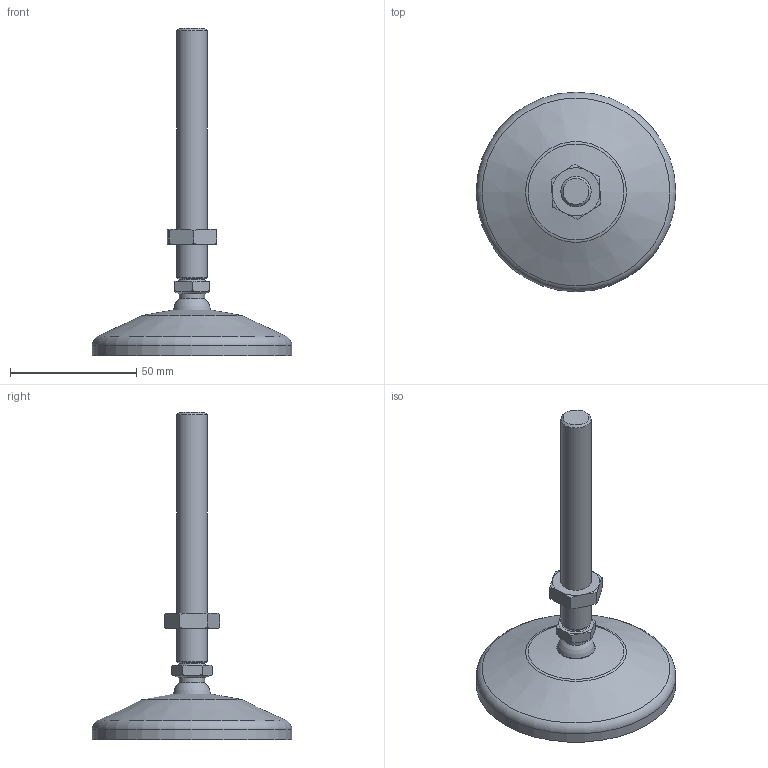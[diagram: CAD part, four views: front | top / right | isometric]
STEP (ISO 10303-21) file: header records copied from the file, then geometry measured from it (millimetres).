
FILE_DESCRIPTION(('STEP AP242'),'1');
FILE_NAME('TAPID80M12100PA.stp','2026-10-12T10:29:26',(' '),(' '),'Spatial InterOp 3D',' ',' ');
FILE_SCHEMA(('AP242_MANAGED_MODEL_BASED_3D_ENGINEERING_MIM_LF {1 0 10303 442 1 1 4}'));
Length unit declared in the file: millimetre
Products named in the file (5): Pied Ø80 M12x100 articulé réglable (+/- 35mm) ; Ecrou H DIN 439 M12; Tige filetée M12x100 (Ø15); Embase PA Ø80 (Ø15); TAPID80M12100PA
Assembly tree (4 placements, depth 3):
  TAPID80M12100PA
    Pied Ø80 M12x100 articulé réglable (+/- 35mm) 
      Ecrou H DIN 439 M12
      Tige filetée M12x100 (Ø15)
      Embase PA Ø80 (Ø15)
Bounding box: 79 x 79 x 129.5 mm (x, y, z)
Volume: 56504.5 mm3; surface area: 18977.5 mm2
Topology: 3 solids, 4 shells, 81 faces, 176 edges, 105 vertices
Faces by surface type: torus 30, plane 22, cylinder 20, cone 7, sphere 2
Full cylindrical faces by diameter (mm): 10 x1, 10.2 x1, 10.25 x1, 12 x1, 15 x1, 15.5 x1, 69 x1, 79 x1
Entity records: 3425 total; most frequent: CARTESIAN_POINT 912, DIRECTION 350, ORIENTED_EDGE 296, AXIS2_PLACEMENT_3D 163, EDGE_CURVE 148, EDGE_LOOP 108, VERTEX_POINT 100, FACE_OUTER_BOUND 95
